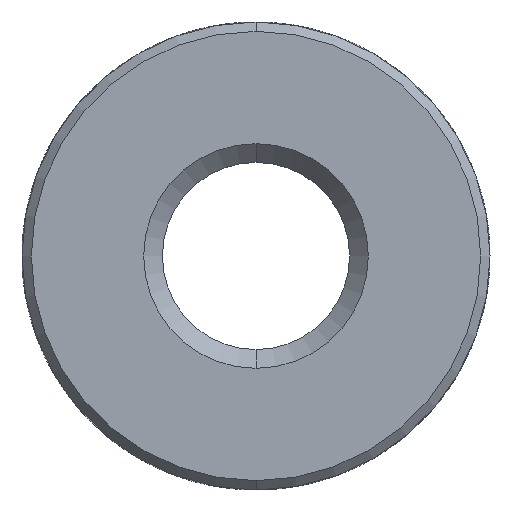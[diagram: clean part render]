
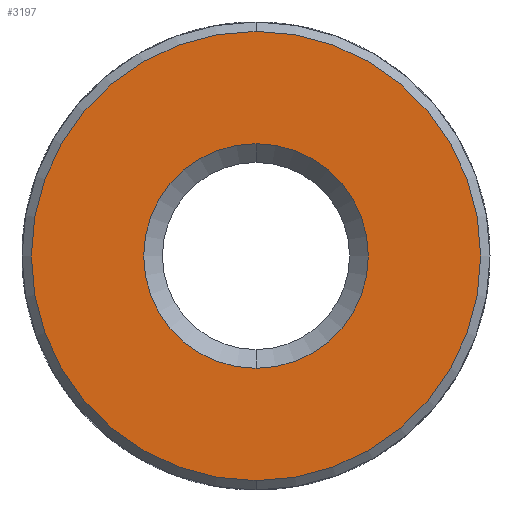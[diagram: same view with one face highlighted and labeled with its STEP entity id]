
A CAD part, front view. The second image highlights one B-rep face of the part: STEP entity #3197.
In plain terms, the highlighted planar face has unit normal (0, -1, 0).
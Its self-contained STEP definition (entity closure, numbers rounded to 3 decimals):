
#123 = DIRECTION ( 'NONE',  ( 0., 1., 0. ) ) ;
#143 = ORIENTED_EDGE ( 'NONE', *, *, #435, .T. ) ;
#406 = AXIS2_PLACEMENT_3D ( 'NONE', #4825, #631, #4356 ) ;
#435 = EDGE_CURVE ( 'NONE', #3935, #2369, #3036, .T. ) ;
#480 = VERTEX_POINT ( 'NONE', #2228 ) ;
#511 = EDGE_CURVE ( 'NONE', #480, #5095, #3308, .T. ) ;
#631 = DIRECTION ( 'NONE',  ( 0., -1., 0. ) ) ;
#1017 = EDGE_CURVE ( 'NONE', #5095, #480, #2553, .T. ) ;
#1094 = DIRECTION ( 'NONE',  ( 0., -1., 0. ) ) ;
#1665 = CARTESIAN_POINT ( 'NONE',  ( 0., -5.3, 1.2 ) ) ;
#1746 = CARTESIAN_POINT ( 'NONE',  ( 0., -5.3, -1.2 ) ) ;
#1832 = DIRECTION ( 'NONE',  ( 0., 0., -1. ) ) ;
#1910 = AXIS2_PLACEMENT_3D ( 'NONE', #3166, #3987, #2366 ) ;
#2115 = CARTESIAN_POINT ( 'NONE',  ( 0., -5.3, 0. ) ) ;
#2228 = CARTESIAN_POINT ( 'NONE',  ( 0., -5.3, 2.4 ) ) ;
#2366 = DIRECTION ( 'NONE',  ( 0., 0., -1. ) ) ;
#2369 = VERTEX_POINT ( 'NONE', #1746 ) ;
#2527 = DIRECTION ( 'NONE',  ( 0., 0., -1. ) ) ;
#2553 = CIRCLE ( 'NONE', #406, 2.4 ) ;
#2565 = ORIENTED_EDGE ( 'NONE', *, *, #5051, .T. ) ;
#2887 = AXIS2_PLACEMENT_3D ( 'NONE', #2115, #3729, #2527 ) ;
#2897 = EDGE_LOOP ( 'NONE', ( #2565, #143 ) ) ;
#3036 = CIRCLE ( 'NONE', #3278, 1.2 ) ;
#3166 = CARTESIAN_POINT ( 'NONE',  ( 0., -5.3, 2.5 ) ) ;
#3197 = ADVANCED_FACE ( 'NONE', ( #3868, #3685 ), #3615, .T. ) ;
#3278 = AXIS2_PLACEMENT_3D ( 'NONE', #4268, #123, #1832 ) ;
#3308 = CIRCLE ( 'NONE', #4845, 2.4 ) ;
#3615 = PLANE ( 'NONE',  #1910 ) ;
#3685 = FACE_BOUND ( 'NONE', #2897, .T. ) ;
#3729 = DIRECTION ( 'NONE',  ( 0., 1., 0. ) ) ;
#3868 = FACE_OUTER_BOUND ( 'NONE', #4376, .T. ) ;
#3935 = VERTEX_POINT ( 'NONE', #1665 ) ;
#3939 = CIRCLE ( 'NONE', #2887, 1.2 ) ;
#3987 = DIRECTION ( 'NONE',  ( 0., -1., 0. ) ) ;
#4034 = ORIENTED_EDGE ( 'NONE', *, *, #511, .T. ) ;
#4268 = CARTESIAN_POINT ( 'NONE',  ( 0., -5.3, 0. ) ) ;
#4336 = ORIENTED_EDGE ( 'NONE', *, *, #1017, .T. ) ;
#4340 = DIRECTION ( 'NONE',  ( 0., 0., -1. ) ) ;
#4356 = DIRECTION ( 'NONE',  ( 0., 0., -1. ) ) ;
#4376 = EDGE_LOOP ( 'NONE', ( #4034, #4336 ) ) ;
#4412 = CARTESIAN_POINT ( 'NONE',  ( 0., -5.3, 0. ) ) ;
#4623 = CARTESIAN_POINT ( 'NONE',  ( 0., -5.3, -2.4 ) ) ;
#4825 = CARTESIAN_POINT ( 'NONE',  ( 0., -5.3, 0. ) ) ;
#4845 = AXIS2_PLACEMENT_3D ( 'NONE', #4412, #1094, #4340 ) ;
#5051 = EDGE_CURVE ( 'NONE', #2369, #3935, #3939, .T. ) ;
#5095 = VERTEX_POINT ( 'NONE', #4623 ) ;
